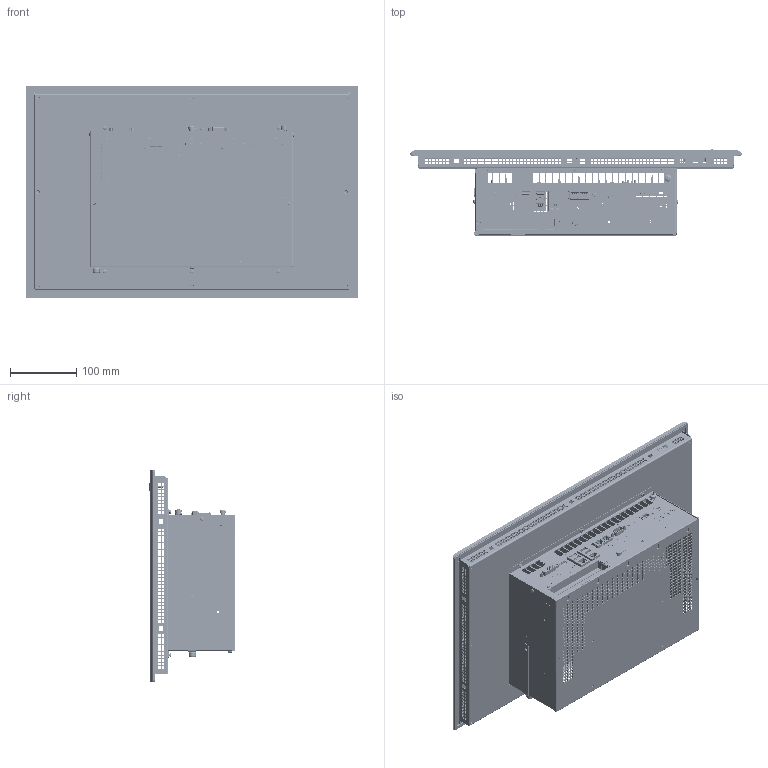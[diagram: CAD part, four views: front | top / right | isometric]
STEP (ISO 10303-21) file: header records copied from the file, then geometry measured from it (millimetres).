
FILE_DESCRIPTION (( 'STEP AP214' ), '1' );
FILE_NAME ('C6P34-Panel_185_Res_S1.STEP', '2019-09-20T14:15:48', ( '' ), ( '' ), 'SwSTEP 2.0', 'SolidWorks 2018', '' );
FILE_SCHEMA (( 'AUTOMOTIVE_DESIGN' ));
Length unit declared in the file: millimetre
Products named in the file (175): 21408088; D02201701; Copia di 50342029^56600171; 69111027; 56600171; 23330039; 66320016; 7397_227; 65720029; 52536147_Default<A macchina>; 21405029; 65720030; 55455080; 66320015; 51524089; 69111028; 55202070; 65720078; 59702267; 52536147; 58755004; 21410056; 57936013; 21509026; 57902482; 66320001; 14300025; 62920002; 57902481; piazzuola_de800_di370; 52912002; 21409042; 21410046; 62920009; C6P34-Panel_185_Res_S1; 58702102; 56636568_Default<A macchina>; 7397_227_Depopolato; D02201703; 21410015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
Assembly tree (126 placements, depth 4):
  21408088
  Copia di 50342029^56600171
  69111027
  23330039
  66320016
Bounding box: 500 x 130.74 x 320 mm (x, y, z)
Volume: 1474006.2 mm3; surface area: 1731569.3 mm2
Topology: 229 solids, 247 shells, 27071 faces, 75943 edges, 49756 vertices
Faces by surface type: plane 21021, cylinder 4561, bspline 775, cone 583, torus 111, sphere 20
Full cylindrical faces by diameter (mm): 0.3 x9, 0.434 x1, 0.6 x30, 0.65 x6, 0.7 x165, 0.8 x36, 0.85 x66, 0.9 x175, 0.95 x11, 1 x119, 1.1 x3, 1.2 x10, 1.32 x2, 1.35 x4, 1.4 x8, 1.5 x6, 1.6 x7, 1.7 x4, 1.8 x3, 1.9 x4, 1.95 x4, 2 x1, 2.05 x1, 2.3 x18, 2.4 x9, 2.5 x32, 2.6 x5, 2.8 x3, 2.874 x1, 3 x70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
Entity records: 806770 total; most frequent: CARTESIAN_POINT 169895, ORIENTED_EDGE 131282, DIRECTION 116595, EDGE_CURVE 66031, VECTOR 55827, LINE 55827, VERTEX_POINT 43955, EDGE_LOOP 30959
